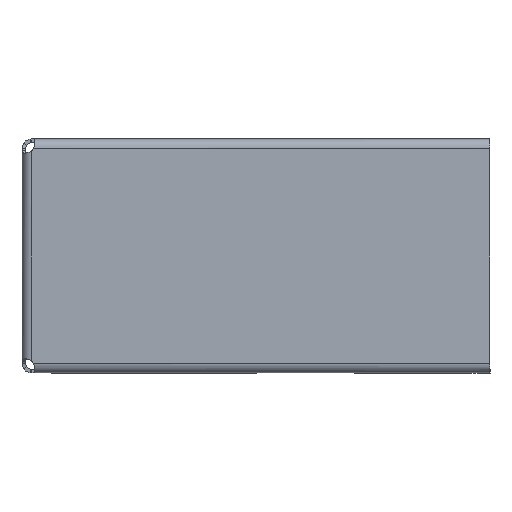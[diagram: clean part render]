
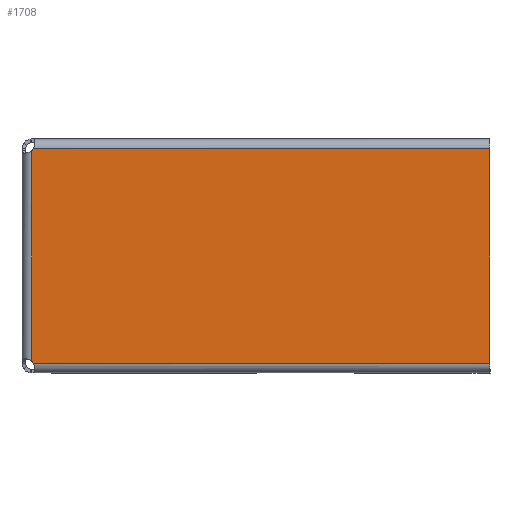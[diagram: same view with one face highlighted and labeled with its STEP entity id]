
A CAD part, front view. The second image highlights one B-rep face of the part: STEP entity #1708.
In plain terms, the highlighted planar face has unit normal (0, -1, 0).
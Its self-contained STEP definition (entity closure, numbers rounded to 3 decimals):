
#36 = VECTOR ( 'NONE', #76, 1000. ) ;
#76 = DIRECTION ( 'NONE',  ( 0., 0., -1. ) ) ;
#148 = VERTEX_POINT ( 'NONE', #503 ) ;
#159 = LINE ( 'NONE', #2809, #909 ) ;
#208 = CARTESIAN_POINT ( 'NONE',  ( 2.1, 0., -22.49 ) ) ;
#333 = VERTEX_POINT ( 'NONE', #950 ) ;
#421 = ORIENTED_EDGE ( 'NONE', *, *, #3153, .T. ) ;
#503 = CARTESIAN_POINT ( 'NONE',  ( 100., 0., -22.9 ) ) ;
#557 = PLANE ( 'NONE',  #2786 ) ;
#627 = CARTESIAN_POINT ( 'NONE',  ( 2.1, 0., -22.9 ) ) ;
#739 = EDGE_CURVE ( 'NONE', #1406, #333, #3169, .T. ) ;
#751 = AXIS2_PLACEMENT_3D ( 'NONE', #3455, #889, #1503 ) ;
#812 = ORIENTED_EDGE ( 'NONE', *, *, #1601, .F. ) ;
#889 = DIRECTION ( 'NONE',  ( 0., 1., 0. ) ) ;
#909 = VECTOR ( 'NONE', #1153, 1000. ) ;
#914 = VERTEX_POINT ( 'NONE', #1584 ) ;
#950 = CARTESIAN_POINT ( 'NONE',  ( 2.1, 0., 22.49 ) ) ;
#1091 = DIRECTION ( 'NONE',  ( 0., 0., 1. ) ) ;
#1114 = CARTESIAN_POINT ( 'NONE',  ( 100., 0., 25. ) ) ;
#1153 = DIRECTION ( 'NONE',  ( -1., 0., 0. ) ) ;
#1263 = EDGE_CURVE ( 'NONE', #333, #2864, #2248, .T. ) ;
#1406 = VERTEX_POINT ( 'NONE', #1539 ) ;
#1422 = LINE ( 'NONE', #1114, #36 ) ;
#1503 = DIRECTION ( 'NONE',  ( 0., 0., 1. ) ) ;
#1539 = CARTESIAN_POINT ( 'NONE',  ( 2.436, 0., 22.9 ) ) ;
#1584 = CARTESIAN_POINT ( 'NONE',  ( 2.436, 0., -22.9 ) ) ;
#1601 = EDGE_CURVE ( 'NONE', #3748, #148, #1422, .T. ) ;
#1669 = ORIENTED_EDGE ( 'NONE', *, *, #1786, .T. ) ;
#1708 = ADVANCED_FACE ( 'NONE', ( #2728 ), #557, .F. ) ;
#1786 = EDGE_CURVE ( 'NONE', #3748, #1406, #159, .T. ) ;
#1804 = AXIS2_PLACEMENT_3D ( 'NONE', #3594, #3651, #1091 ) ;
#1857 = DIRECTION ( 'NONE',  ( 0., 1., 0. ) ) ;
#1928 = DIRECTION ( 'NONE',  ( 1., 0., 0. ) ) ;
#1943 = CARTESIAN_POINT ( 'NONE',  ( 2.1, 0., 25. ) ) ;
#1998 = CIRCLE ( 'NONE', #1804, 2. ) ;
#2075 = DIRECTION ( 'NONE',  ( 0., 0., 1. ) ) ;
#2248 = LINE ( 'NONE', #1943, #4001 ) ;
#2253 = ORIENTED_EDGE ( 'NONE', *, *, #4070, .T. ) ;
#2728 = FACE_OUTER_BOUND ( 'NONE', #2842, .T. ) ;
#2785 = CARTESIAN_POINT ( 'NONE',  ( 0., 0., 25. ) ) ;
#2786 = AXIS2_PLACEMENT_3D ( 'NONE', #2785, #1857, #2075 ) ;
#2809 = CARTESIAN_POINT ( 'NONE',  ( 100., 0., 22.9 ) ) ;
#2838 = ORIENTED_EDGE ( 'NONE', *, *, #739, .T. ) ;
#2842 = EDGE_LOOP ( 'NONE', ( #2838, #3406, #421, #2253, #812, #1669 ) ) ;
#2864 = VERTEX_POINT ( 'NONE', #208 ) ;
#2994 = VECTOR ( 'NONE', #1928, 1000. ) ;
#3153 = EDGE_CURVE ( 'NONE', #2864, #914, #1998, .T. ) ;
#3169 = CIRCLE ( 'NONE', #751, 2. ) ;
#3197 = CARTESIAN_POINT ( 'NONE',  ( 100., 0., 22.9 ) ) ;
#3207 = DIRECTION ( 'NONE',  ( 0., 0., -1. ) ) ;
#3406 = ORIENTED_EDGE ( 'NONE', *, *, #1263, .T. ) ;
#3455 = CARTESIAN_POINT ( 'NONE',  ( 0.733, 0., 23.95 ) ) ;
#3456 = LINE ( 'NONE', #627, #2994 ) ;
#3594 = CARTESIAN_POINT ( 'NONE',  ( 0.733, 0., -23.95 ) ) ;
#3651 = DIRECTION ( 'NONE',  ( 0., 1., 0. ) ) ;
#3748 = VERTEX_POINT ( 'NONE', #3197 ) ;
#4001 = VECTOR ( 'NONE', #3207, 1000. ) ;
#4070 = EDGE_CURVE ( 'NONE', #914, #148, #3456, .T. ) ;
